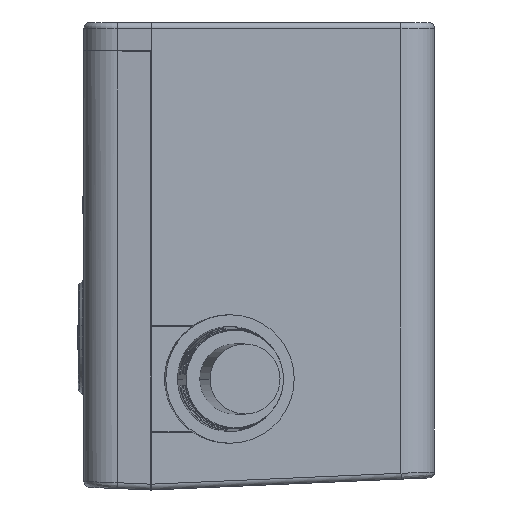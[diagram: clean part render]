
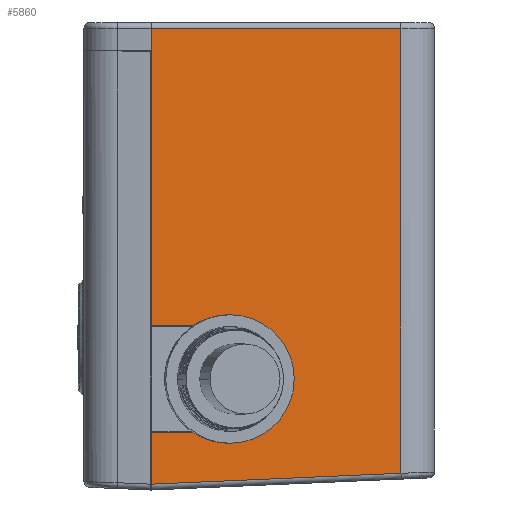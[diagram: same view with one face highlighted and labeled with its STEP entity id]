
A CAD part, left-side view. The second image highlights one B-rep face of the part: STEP entity #5860.
In plain terms, the highlighted planar face has unit normal (-0.999, -0.044, 0).
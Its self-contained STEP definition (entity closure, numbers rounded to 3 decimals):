
#1880=DIRECTION('',(0.,0.,-1.));
#1881=VECTOR('',#1880,23.483);
#1882=CARTESIAN_POINT('',(-25.,9.2,37.6));
#1883=LINE('',#1882,#1881);
#2011=DIRECTION('',(0.044,-0.999,0.));
#2012=VECTOR('',#2011,21.351);
#2013=CARTESIAN_POINT('',(-25.,9.2,39.5));
#2014=LINE('',#2013,#2012);
#2015=DIRECTION('',(0.,0.,-1.));
#2016=VECTOR('',#2015,38.069);
#2017=CARTESIAN_POINT('',(-24.069,-12.131,39.5));
#2018=LINE('',#2017,#2016);
#2019=DIRECTION('',(-0.044,0.998,-0.044));
#2020=VECTOR('',#2019,21.371);
#2021=CARTESIAN_POINT('',(-24.069,-12.131,
1.431));
#2022=LINE('',#2021,#2020);
#2023=DIRECTION('',(0.,0.,1.));
#2024=VECTOR('',#2023,4.384);
#2025=CARTESIAN_POINT('',(-25.,9.2,0.5));
#2026=LINE('',#2025,#2024);
#2027=DIRECTION('',(-0.044,0.999,-0.017));
#2028=VECTOR('',#2027,6.707);
#2029=CARTESIAN_POINT('',(-24.707,2.5,5.));
#2030=LINE('',#2029,#2028);
#2031=CARTESIAN_POINT('',(-24.707,2.5,5.));
#2032=CARTESIAN_POINT('',(-24.684,1.97,5.));
#2033=CARTESIAN_POINT('',(-24.634,0.823,
5.192));
#2034=CARTESIAN_POINT('',(-24.576,-0.509,
6.051));
#2035=CARTESIAN_POINT('',(-24.542,-1.295,
7.023));
#2036=CARTESIAN_POINT('',(-24.523,-1.714,
7.838));
#2037=CARTESIAN_POINT('',(-24.513,-1.953,
8.687));
#2038=CARTESIAN_POINT('',(-24.51,-2.024,9.5));
#2039=CARTESIAN_POINT('',(-24.513,-1.953,
10.313));
#2040=CARTESIAN_POINT('',(-24.523,-1.714,
11.162));
#2041=CARTESIAN_POINT('',(-24.542,-1.295,
11.977));
#2042=CARTESIAN_POINT('',(-24.576,-0.509,
12.949));
#2043=CARTESIAN_POINT('',(-24.634,0.823,
13.808));
#2044=CARTESIAN_POINT('',(-24.684,1.97,14.));
#2045=CARTESIAN_POINT('',(-24.707,2.5,14.));
#2047=DIRECTION('',(0.044,-0.999,-0.017));
#2048=VECTOR('',#2047,6.707);
#2049=CARTESIAN_POINT('',(-25.,9.2,14.117));
#2050=LINE('',#2049,#2048);
#2055=DIRECTION('',(0.,0.,1.));
#2056=VECTOR('',#2055,1.9);
#2057=CARTESIAN_POINT('',(-25.,9.2,37.6));
#2058=LINE('',#2057,#2056);
#2946=CARTESIAN_POINT('',(-25.,9.2,37.6));
#2948=VERTEX_POINT('',#2946);
#3130=VERTEX_POINT('',#2031);
#3131=VERTEX_POINT('',#2045);
#3132=CARTESIAN_POINT('',(-25.,9.2,4.883));
#3133=VERTEX_POINT('',#3132);
#3134=CARTESIAN_POINT('',(-25.,9.2,14.117));
#3135=VERTEX_POINT('',#3134);
#3142=CARTESIAN_POINT('',(-25.,9.2,0.5));
#3143=VERTEX_POINT('',#3142);
#3284=CARTESIAN_POINT('',(-24.069,-12.131,
1.431));
#3285=VERTEX_POINT('',#3284);
#3315=CARTESIAN_POINT('',(-24.069,-12.131,39.5));
#3316=VERTEX_POINT('',#3315);
#3319=CARTESIAN_POINT('',(-25.,9.2,39.5));
#3320=VERTEX_POINT('',#3319);
#5841=CARTESIAN_POINT('',(-25.,9.2,0.));
#5842=DIRECTION('',(-0.999,-0.044,0.));
#5843=DIRECTION('',(0.,0.,1.));
#5844=AXIS2_PLACEMENT_3D('',#5841,#5842,#5843);
#5845=PLANE('',#5844);
#5846=ORIENTED_EDGE('',*,*,#5688,.F.);
#5848=ORIENTED_EDGE('',*,*,#5847,.T.);
#5850=ORIENTED_EDGE('',*,*,#5849,.T.);
#5852=ORIENTED_EDGE('',*,*,#5851,.T.);
#5853=ORIENTED_EDGE('',*,*,#5833,.T.);
#5854=ORIENTED_EDGE('',*,*,#5668,.T.);
#5855=ORIENTED_EDGE('',*,*,#5612,.F.);
#5856=ORIENTED_EDGE('',*,*,#5629,.T.);
#5857=ORIENTED_EDGE('',*,*,#5643,.F.);
#5858=EDGE_LOOP('',(#5846,#5848,#5850,#5852,#5853,#5854,#5855,#5856,#5857));
#5859=FACE_OUTER_BOUND('',#5858,.F.);
#5860=ADVANCED_FACE('',(#5859),#5845,.T.);
#2046=B_SPLINE_CURVE_WITH_KNOTS('',3,(#2031,#2032,#2033,#2034,#2035,#2036,#2037,
#2038,#2039,#2040,#2041,#2042,#2043,#2044,#2045),.UNSPECIFIED.,.F.,.F.,(4,1,1,1,
1,1,1,1,1,1,1,1,4),(0.,0.125,0.25,0.313,0.375,0.438,0.5,
0.563,0.625,0.688,0.75,0.875,1.),.UNSPECIFIED.);
#5612=EDGE_CURVE('',#3130,#3133,#2030,.T.);
#5629=EDGE_CURVE('',#3130,#3131,#2046,.T.);
#5643=EDGE_CURVE('',#3135,#3131,#2050,.T.);
#5668=EDGE_CURVE('',#3143,#3133,#2026,.T.);
#5688=EDGE_CURVE('',#2948,#3135,#1883,.T.);
#5833=EDGE_CURVE('',#3285,#3143,#2022,.T.);
#5847=EDGE_CURVE('',#2948,#3320,#2058,.T.);
#5849=EDGE_CURVE('',#3320,#3316,#2014,.T.);
#5851=EDGE_CURVE('',#3316,#3285,#2018,.T.);
